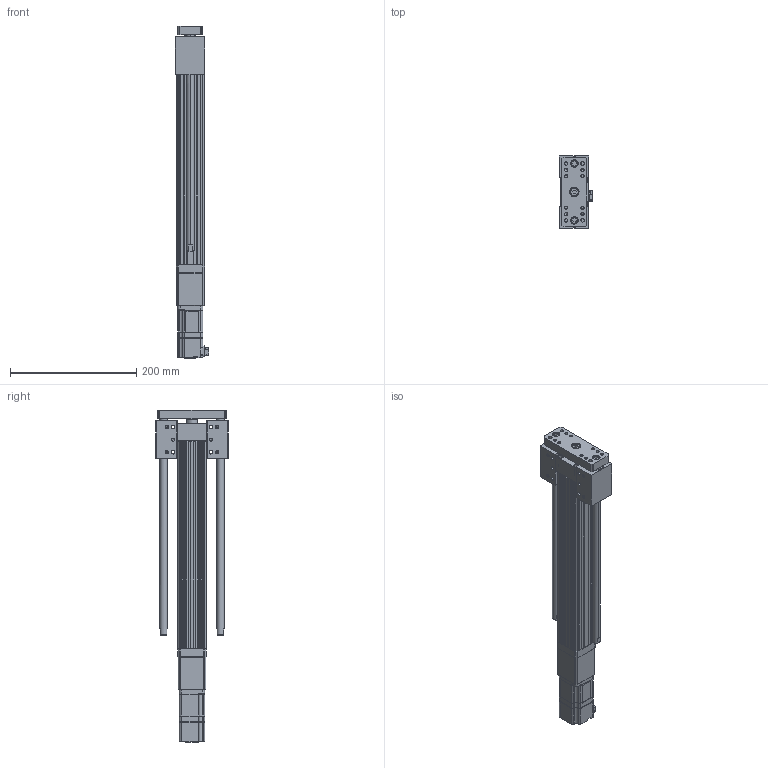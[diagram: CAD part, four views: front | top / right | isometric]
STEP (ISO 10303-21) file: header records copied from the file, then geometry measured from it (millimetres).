
FILE_DESCRIPTION (( 'STEP AP203' ), '1' );
FILE_NAME ('ANS045-HS250-05(10)-W10.STEP', '2019-02-14T03:01:14', ( 'user' ), ( '' ), 'SwSTEP 2.0', 'SolidWorks 2013', '' );
FILE_SCHEMA (( 'CONFIG_CONTROL_DESIGN' ));
Length unit declared in the file: millimetre
Products named in the file (4): ANS045 HS250 VER2; ANS045 ROD ST250 H; SGMJV_01A_A21; ANS045-HS250-05(10)-W10
Assembly tree (3 placements, depth 2):
  ANS045-HS250-05(10)-W10
    ANS045 HS250 VER2
    ANS045 ROD ST250 H
    SGMJV_01A_A21
Bounding box: 52.3 x 115 x 526.1 mm (x, y, z)
Volume: 984379.3 mm3; surface area: 279556.6 mm2
Topology: 3 solids, 7 shells, 1067 faces, 2681 edges, 1678 vertices
Faces by surface type: plane 542, cylinder 373, cone 150, bspline 2
Entity records: 31939 total; most frequent: CARTESIAN_POINT 5908, DIRECTION 5389, ORIENTED_EDGE 5290, EDGE_CURVE 2645, AXIS2_PLACEMENT_3D 1825, VECTOR 1739, LINE 1739, VERTEX_POINT 1678
